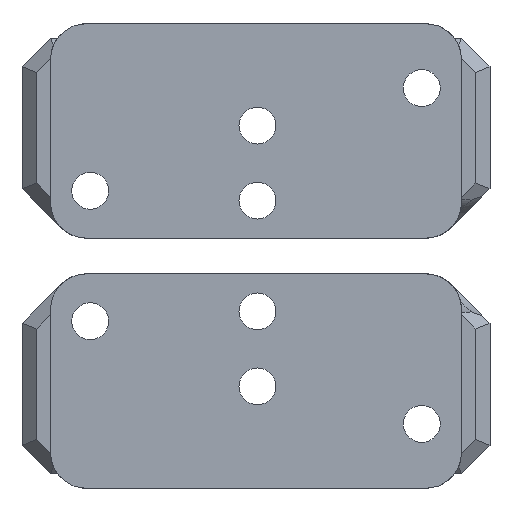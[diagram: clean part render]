
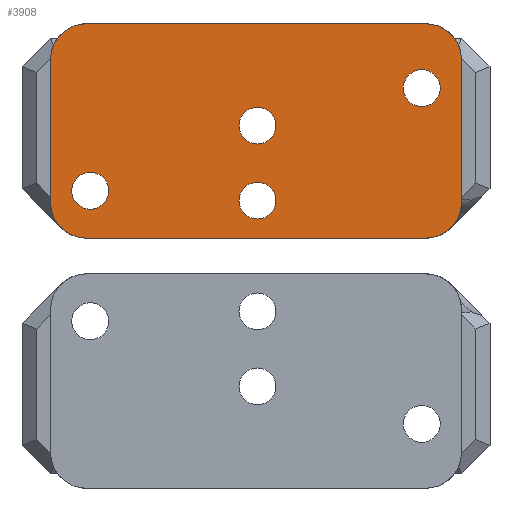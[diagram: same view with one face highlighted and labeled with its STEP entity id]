
A CAD part, left-side view. The second image highlights one B-rep face of the part: STEP entity #3908.
In plain terms, the highlighted planar face has unit normal (-1, 0, 0).
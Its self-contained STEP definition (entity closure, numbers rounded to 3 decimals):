
#94=CIRCLE('',#4122,5.);
#96=CIRCLE('',#4126,5.);
#100=CIRCLE('',#4143,5.);
#103=CIRCLE('',#4154,5.);
#104=CIRCLE('',#4155,2.58);
#105=CIRCLE('',#4156,2.58);
#106=CIRCLE('',#4157,2.58);
#107=CIRCLE('',#4158,2.58);
#185=FACE_BOUND('',#522,.T.);
#186=FACE_BOUND('',#523,.T.);
#187=FACE_BOUND('',#524,.T.);
#188=FACE_BOUND('',#525,.T.);
#302=FACE_OUTER_BOUND('',#521,.T.);
#521=EDGE_LOOP('',(#2772,#2773,#2774,#2775,#2776,#2777,#2778,#2779));
#522=EDGE_LOOP('',(#2780));
#523=EDGE_LOOP('',(#2781));
#524=EDGE_LOOP('',(#2782));
#525=EDGE_LOOP('',(#2783));
#771=LINE('',#5544,#1208);
#802=LINE('',#5807,#1239);
#824=LINE('',#5851,#1261);
#833=LINE('',#5875,#1270);
#1208=VECTOR('',#4452,10.);
#1239=VECTOR('',#4519,10.);
#1261=VECTOR('',#4547,10.);
#1270=VECTOR('',#4574,10.);
#1655=VERTEX_POINT('',#5536);
#1656=VERTEX_POINT('',#5538);
#1657=VERTEX_POINT('',#5542);
#1659=VERTEX_POINT('',#5548);
#1690=VERTEX_POINT('',#5804);
#1691=VERTEX_POINT('',#5806);
#1709=VERTEX_POINT('',#5844);
#1716=VERTEX_POINT('',#5874);
#1717=VERTEX_POINT('',#5877);
#1718=VERTEX_POINT('',#5879);
#1719=VERTEX_POINT('',#5881);
#1720=VERTEX_POINT('',#5883);
#2033=EDGE_CURVE('',#1656,#1655,#94,.T.);
#2036=EDGE_CURVE('',#1655,#1657,#771,.T.);
#2039=EDGE_CURVE('',#1657,#1659,#96,.T.);
#2085=EDGE_CURVE('',#1691,#1690,#802,.T.);
#2105=EDGE_CURVE('',#1690,#1709,#100,.T.);
#2108=EDGE_CURVE('',#1709,#1656,#824,.T.);
#2120=EDGE_CURVE('',#1659,#1716,#833,.T.);
#2121=EDGE_CURVE('',#1716,#1691,#103,.T.);
#2122=EDGE_CURVE('',#1717,#1717,#104,.T.);
#2123=EDGE_CURVE('',#1718,#1718,#105,.F.);
#2124=EDGE_CURVE('',#1719,#1719,#106,.F.);
#2125=EDGE_CURVE('',#1720,#1720,#107,.T.);
#2772=ORIENTED_EDGE('',*,*,#2085,.T.);
#2773=ORIENTED_EDGE('',*,*,#2105,.T.);
#2774=ORIENTED_EDGE('',*,*,#2108,.T.);
#2775=ORIENTED_EDGE('',*,*,#2033,.T.);
#2776=ORIENTED_EDGE('',*,*,#2036,.T.);
#2777=ORIENTED_EDGE('',*,*,#2039,.T.);
#2778=ORIENTED_EDGE('',*,*,#2120,.T.);
#2779=ORIENTED_EDGE('',*,*,#2121,.T.);
#2780=ORIENTED_EDGE('',*,*,#2122,.T.);
#2781=ORIENTED_EDGE('',*,*,#2123,.F.);
#2782=ORIENTED_EDGE('',*,*,#2124,.F.);
#2783=ORIENTED_EDGE('',*,*,#2125,.T.);
#3751=PLANE('',#4153);
#3908=ADVANCED_FACE('',(#302,#185,#186,#187,#188),#3751,.T.);
#4122=AXIS2_PLACEMENT_3D('',#5539,#4446,#4447);
#4126=AXIS2_PLACEMENT_3D('',#5550,#4458,#4459);
#4143=AXIS2_PLACEMENT_3D('',#5846,#4541,#4542);
#4153=AXIS2_PLACEMENT_3D('',#5873,#4572,#4573);
#4154=AXIS2_PLACEMENT_3D('',#5876,#4575,#4576);
#4155=AXIS2_PLACEMENT_3D('',#5878,#4577,#4578);
#4156=AXIS2_PLACEMENT_3D('',#5880,#4579,#4580);
#4157=AXIS2_PLACEMENT_3D('',#5882,#4581,#4582);
#4158=AXIS2_PLACEMENT_3D('',#5884,#4583,#4584);
#4446=DIRECTION('center_axis',(-1.,0.,0.));
#4447=DIRECTION('ref_axis',(0.,-0.707,0.707));
#4452=DIRECTION('',(0.,1.,0.));
#4458=DIRECTION('center_axis',(-1.,0.,0.));
#4459=DIRECTION('ref_axis',(0.,0.707,0.707));
#4519=DIRECTION('',(0.,-1.,0.));
#4541=DIRECTION('center_axis',(-1.,0.,0.));
#4542=DIRECTION('ref_axis',(0.,0.,-1.));
#4547=DIRECTION('',(0.,0.,1.));
#4572=DIRECTION('center_axis',(-1.,0.,0.));
#4573=DIRECTION('ref_axis',(0.,0.,
-1.));
#4574=DIRECTION('',(0.,0.,-1.));
#4575=DIRECTION('center_axis',(-1.,0.,0.));
#4576=DIRECTION('ref_axis',(0.,0.707,-0.707));
#4577=DIRECTION('center_axis',(1.,0.,0.));
#4578=DIRECTION('ref_axis',(0.,0.,1.));
#4579=DIRECTION('center_axis',(1.,0.,0.));
#4580=DIRECTION('ref_axis',(0.,0.,1.));
#4581=DIRECTION('center_axis',(1.,0.,0.));
#4582=DIRECTION('ref_axis',(0.,0.,1.));
#4583=DIRECTION('center_axis',(1.,0.,0.));
#4584=DIRECTION('ref_axis',(0.,0.,1.));
#5536=CARTESIAN_POINT('',(-26.,-23.75,30.));
#5538=CARTESIAN_POINT('',(-26.,-28.75,25.));
#5539=CARTESIAN_POINT('Origin',(-26.,-23.75,25.));
#5542=CARTESIAN_POINT('',(-26.,23.75,30.));
#5544=CARTESIAN_POINT('',(-26.,-28.75,30.));
#5548=CARTESIAN_POINT('',(-26.,28.75,25.));
#5550=CARTESIAN_POINT('Origin',(-26.,23.75,25.));
#5804=CARTESIAN_POINT('',(-26.,-23.75,0.));
#5806=CARTESIAN_POINT('',(-26.,23.75,0.));
#5807=CARTESIAN_POINT('',(-26.,28.75,0.));
#5844=CARTESIAN_POINT('',(-26.,-28.75,5.));
#5846=CARTESIAN_POINT('Origin',(-26.,-23.75,5.));
#5851=CARTESIAN_POINT('',(-26.,-28.75,0.));
#5873=CARTESIAN_POINT('Origin',(-26.,-0.2,5.25));
#5874=CARTESIAN_POINT('',(-26.,28.75,5.));
#5875=CARTESIAN_POINT('',(-26.,28.75,30.));
#5876=CARTESIAN_POINT('Origin',(-26.,23.75,5.));
#5877=CARTESIAN_POINT('',(-26.,-0.2,2.67));
#5878=CARTESIAN_POINT('Origin',(-26.,-0.2,5.25));
#5879=CARTESIAN_POINT('',(-26.,23.2,4.04));
#5880=CARTESIAN_POINT('Origin',(-26.,23.2,6.62));
#5881=CARTESIAN_POINT('',(-26.,-23.2,18.42));
#5882=CARTESIAN_POINT('Origin',(-26.,-23.2,21.));
#5883=CARTESIAN_POINT('',(-26.,-0.2,13.17));
#5884=CARTESIAN_POINT('Origin',(-26.,-0.2,15.75));
